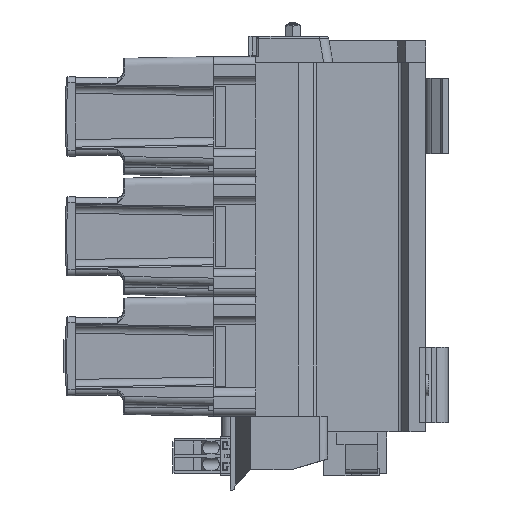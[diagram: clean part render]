
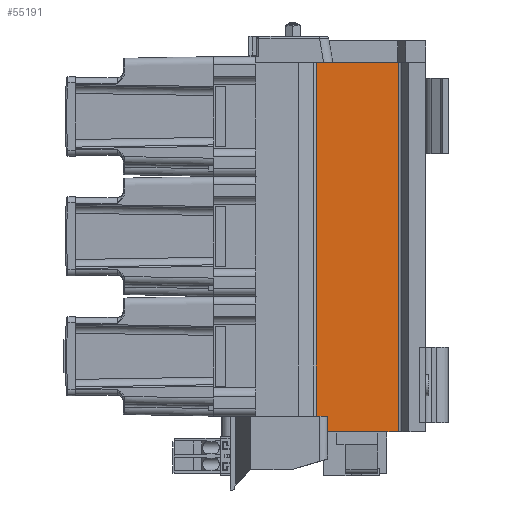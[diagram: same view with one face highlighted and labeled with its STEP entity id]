
A CAD part, left-side view. The second image highlights one B-rep face of the part: STEP entity #55191.
In plain terms, the highlighted planar face has unit normal (-1, 0, 0).
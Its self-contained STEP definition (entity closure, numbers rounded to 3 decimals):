
#1888 = CARTESIAN_POINT ( 'NONE',  ( -58.1, -37.789, -123.75 ) ) ;
#3007 = VECTOR ( 'NONE', #63796, 1000. ) ;
#6267 = LINE ( 'NONE', #1888, #35707 ) ;
#7904 = CARTESIAN_POINT ( 'NONE',  ( -58.1, 16.402, 121.25 ) ) ;
#8354 = LINE ( 'NONE', #28286, #69180 ) ;
#8583 = AXIS2_PLACEMENT_3D ( 'NONE', #52258, #17002, #58163 ) ;
#8745 = LINE ( 'NONE', #56545, #71400 ) ;
#15998 = DIRECTION ( 'NONE',  ( 0., 0., -1. ) ) ;
#17002 = DIRECTION ( 'NONE',  ( -1., 0., 0. ) ) ;
#17493 = CARTESIAN_POINT ( 'NONE',  ( -58.1, 16.402, -113.25 ) ) ;
#18455 = CARTESIAN_POINT ( 'NONE',  ( -58.1, -37.789, 121.25 ) ) ;
#18629 = LINE ( 'NONE', #46025, #3007 ) ;
#19216 = VECTOR ( 'NONE', #30912, 1000. ) ;
#20088 = VERTEX_POINT ( 'NONE', #68007 ) ;
#20192 = VERTEX_POINT ( 'NONE', #17493 ) ;
#22911 = LINE ( 'NONE', #48438, #19216 ) ;
#23900 = ORIENTED_EDGE ( 'NONE', *, *, #48349, .T. ) ;
#25024 = EDGE_CURVE ( 'NONE', #20088, #35846, #6267, .T. ) ;
#26012 = CARTESIAN_POINT ( 'NONE',  ( -58.1, 9., -113.25 ) ) ;
#26986 = PLANE ( 'NONE',  #8583 ) ;
#28286 = CARTESIAN_POINT ( 'NONE',  ( -58.1, 16.402, -123.75 ) ) ;
#30912 = DIRECTION ( 'NONE',  ( 0., 1., 0. ) ) ;
#31512 = EDGE_LOOP ( 'NONE', ( #23900, #74011, #42247, #44076, #70335, #43072 ) ) ;
#35707 = VECTOR ( 'NONE', #48984, 1000. ) ;
#35846 = VERTEX_POINT ( 'NONE', #18455 ) ;
#39414 = CARTESIAN_POINT ( 'NONE',  ( -58.1, 9., -123.75 ) ) ;
#40003 = VECTOR ( 'NONE', #15998, 1000. ) ;
#42247 = ORIENTED_EDGE ( 'NONE', *, *, #63814, .T. ) ;
#43072 = ORIENTED_EDGE ( 'NONE', *, *, #51996, .F. ) ;
#44076 = ORIENTED_EDGE ( 'NONE', *, *, #25024, .T. ) ;
#44437 = EDGE_CURVE ( 'NONE', #35846, #54043, #22911, .T. ) ;
#46025 = CARTESIAN_POINT ( 'NONE',  ( -58.1, 16.402, -123.75 ) ) ;
#48349 = EDGE_CURVE ( 'NONE', #20192, #69470, #8745, .T. ) ;
#48438 = CARTESIAN_POINT ( 'NONE',  ( -58.1, 16.402, 121.25 ) ) ;
#48984 = DIRECTION ( 'NONE',  ( 0., 0., 1. ) ) ;
#49118 = EDGE_CURVE ( 'NONE', #69470, #75519, #55634, .T. ) ;
#49467 = CARTESIAN_POINT ( 'NONE',  ( -58.1, 9., -123.75 ) ) ;
#51996 = EDGE_CURVE ( 'NONE', #20192, #54043, #8354, .T. ) ;
#52258 = CARTESIAN_POINT ( 'NONE',  ( -58.1, 16.402, -123.75 ) ) ;
#54043 = VERTEX_POINT ( 'NONE', #7904 ) ;
#55191 = ADVANCED_FACE ( 'NONE', ( #72574 ), #26986, .T. ) ;
#55634 = LINE ( 'NONE', #39414, #40003 ) ;
#56033 = DIRECTION ( 'NONE',  ( 0., -1., 0. ) ) ;
#56545 = CARTESIAN_POINT ( 'NONE',  ( -58.1, 16.402, -113.25 ) ) ;
#58163 = DIRECTION ( 'NONE',  ( 0., 0., 1. ) ) ;
#63796 = DIRECTION ( 'NONE',  ( 0., -1., 0. ) ) ;
#63814 = EDGE_CURVE ( 'NONE', #75519, #20088, #18629, .T. ) ;
#68007 = CARTESIAN_POINT ( 'NONE',  ( -58.1, -37.789, -123.75 ) ) ;
#69180 = VECTOR ( 'NONE', #75704, 1000. ) ;
#69470 = VERTEX_POINT ( 'NONE', #26012 ) ;
#70335 = ORIENTED_EDGE ( 'NONE', *, *, #44437, .T. ) ;
#71400 = VECTOR ( 'NONE', #56033, 1000. ) ;
#72574 = FACE_OUTER_BOUND ( 'NONE', #31512, .T. ) ;
#74011 = ORIENTED_EDGE ( 'NONE', *, *, #49118, .T. ) ;
#75519 = VERTEX_POINT ( 'NONE', #49467 ) ;
#75704 = DIRECTION ( 'NONE',  ( 0., 0., 1. ) ) ;
